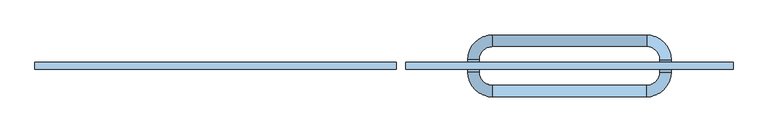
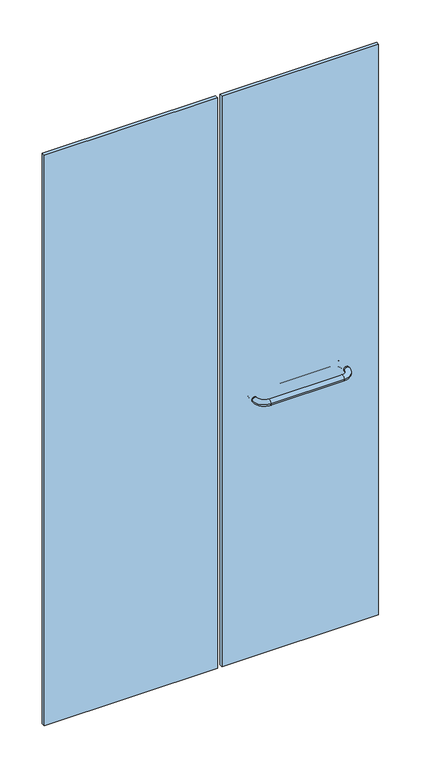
"""IFC4 building model written with IfcOpenShell, lengths in millimetres: window geometry, Baño 1 Puerta lateral - toallero simple : CA08a-cancel baño-1.15."""

from ifc_helpers import new_model, si_unit, point, frame, origin, origin_with_axes, place, context, project, spatial, polyline, circle_curve, ellipse_curve, trimmed, outline, extrude, source, transform, mapped, element, save
from ifc_brep_helpers import cylinder_surface, revolved_surface, advanced_brep


def window_d1d74ead(model_context):
    return source(origin(), model_context, "Body", "SolidModel", [
        extrude(outline(polyline([(27.25, 5.5), (547.25, 5.5), (547.25, -5.5), (27.25, -5.5), (27.25, 5.5)])), origin_with_axes(), (0.0, 0.0, 1.0), 2000.0),
        extrude(outline(polyline([(-562.25, 5.5), (12.25, 5.5), (12.25, -5.5), (-562.25, -5.5), (-562.25, 5.5)])), origin_with_axes(), (0.0, 0.0, 1.0), 2000.0),
        advanced_brep(
        [(125.75, -10.0, 900.0), (143.75, -10.0, 900.0), (164.75, -31.0, 900.0), (164.75, -49.0, 900.0), (125.75, 10.0, 900.0), (143.75, 10.0, 900.0), (164.75, 49.0, 900.0), (164.75, 31.0, 900.0), (409.75, 49.0, 900.0), (409.75, 31.0, 900.0), (448.75, 10.0, 900.0), (430.75, 10.0, 900.0), (448.75, -10.0, 900.0), (430.75, -10.0, 900.0), (409.75, -49.0, 900.0), (409.75, -31.0, 900.0)],
        [
            (0, 1, circle_curve(frame((134.75, -10.0, 900.0), z_axis=(0.0, -1.0, 0.0), x_axis=(1.0, 0.0, 0.0)), 9.0)),
            (1, 2, circle_curve(frame((164.75, -10.0, 900.0), z_axis=(0.0, 0.0, 1.0), x_axis=(0.0, -1.0, 0.0)), 21.0)),
            (2, 3, circle_curve(frame((164.75, -40.0, 900.0), z_axis=(-1.0, 0.0, 0.0), x_axis=(0.0, 1.0, 0.0)), 9.0)),
            (3, 0, circle_curve(frame((164.75, -10.0, 900.0), z_axis=(0.0, 0.0, -1.0), x_axis=(0.0, -1.0, 0.0)), 39.0)),
            (1, 0, circle_curve(frame((134.75, -10.0, 900.0), z_axis=(0.0, -1.0, 0.0), x_axis=(1.0, 0.0, 0.0)), 9.0)),
            (3, 2, circle_curve(frame((164.75, -40.0, 900.0), z_axis=(-1.0, 0.0, 0.0), x_axis=(0.0, 1.0, 0.0)), 9.0)),
            (0, 4),
            (4, 5, circle_curve(frame((134.75, 10.0, 900.0), z_axis=(0.0, -1.0, 0.0), x_axis=(1.0, 0.0, 0.0)), 9.0)),
            (5, 1),
            (5, 4, circle_curve(frame((134.75, 10.0, 900.0), z_axis=(0.0, -1.0, 0.0), x_axis=(1.0, 0.0, 0.0)), 9.0)),
            (6, 7, circle_curve(frame((164.75, 40.0, 900.0), z_axis=(-1.0, 0.0, 0.0), x_axis=(0.0, -1.0, 0.0)), 9.0)),
            (7, 5, circle_curve(frame((164.75, 10.0, 900.0), z_axis=(0.0, 0.0, 1.0), x_axis=(-1.0, 0.0, 0.0)), 21.0)),
            (4, 6, circle_curve(frame((164.75, 10.0, 900.0), z_axis=(0.0, 0.0, -1.0), x_axis=(-1.0, 0.0, 0.0)), 39.0)),
            (7, 6, circle_curve(frame((164.75, 40.0, 900.0), z_axis=(-1.0, 0.0, 0.0), x_axis=(0.0, -1.0, 0.0)), 9.0)),
            (6, 8),
            (8, 9, circle_curve(frame((409.75, 40.0, 900.0), z_axis=(-1.0, 0.0, 0.0), x_axis=(0.0, -1.0, 0.0)), 9.0)),
            (9, 7),
            (9, 8, circle_curve(frame((409.75, 40.0, 900.0), z_axis=(-1.0, 0.0, 0.0), x_axis=(0.0, -1.0, 0.0)), 9.0)),
            (10, 11, circle_curve(frame((439.75, 10.0, 900.0), z_axis=(0.0, 1.0, 0.0), x_axis=(-1.0, 0.0, 0.0)), 9.0)),
            (11, 9, circle_curve(frame((409.75, 10.0, 900.0), z_axis=(0.0, 0.0, 1.0), x_axis=(0.0, 1.0, 0.0)), 21.0)),
            (8, 10, circle_curve(frame((409.75, 10.0, 900.0), z_axis=(0.0, 0.0, -1.0), x_axis=(0.0, 1.0, 0.0)), 39.0)),
            (11, 10, circle_curve(frame((439.75, 10.0, 900.0), z_axis=(0.0, 1.0, 0.0), x_axis=(-1.0, 0.0, 0.0)), 9.0)),
            (10, 12),
            (12, 13, circle_curve(frame((439.75, -10.0, 900.0), z_axis=(0.0, 1.0, 0.0), x_axis=(-1.0, 0.0, 0.0)), 9.0)),
            (13, 11),
            (13, 12, circle_curve(frame((439.75, -10.0, 900.0), z_axis=(0.0, 1.0, 0.0), x_axis=(-1.0, 0.0, 0.0)), 9.0)),
            (14, 15, circle_curve(frame((409.75, -40.0, 900.0), z_axis=(1.0, 0.0, 0.0), x_axis=(0.0, 1.0, 0.0)), 9.0)),
            (15, 13, circle_curve(frame((409.75, -10.0, 900.0), z_axis=(0.0, 0.0, 1.0), x_axis=(1.0, 0.0, 0.0)), 21.0)),
            (12, 14, circle_curve(frame((409.75, -10.0, 900.0), z_axis=(0.0, 0.0, -1.0), x_axis=(1.0, 0.0, 0.0)), 39.0)),
            (15, 14, circle_curve(frame((409.75, -40.0, 900.0), z_axis=(1.0, 0.0, 0.0), x_axis=(0.0, 1.0, 0.0)), 9.0)),
            (14, 3),
            (2, 15),
        ],
        [
            revolved_surface(trimmed(ellipse_curve(frame((164.75, -40.0, 900.0), z_axis=(-1.0, 0.0, 0.0), x_axis=(0.0, 1.0, 0.0)), 9.0, 9.0), [point((164.75, -31.0, 900.0))], [point((164.75, -49.0, 900.0))], True, "CARTESIAN"), (164.75, -10.0, 0.0), (0.0, 0.0, 1.0)),
            revolved_surface(trimmed(ellipse_curve(frame((164.75, -40.0, 900.0), z_axis=(-1.0, 0.0, 0.0), x_axis=(0.0, 1.0, 0.0)), 9.0, 9.0), [point((164.75, -49.0, 900.0))], [point((164.75, -31.0, 900.0))], True, "CARTESIAN"), (164.75, -10.0, 0.0), (0.0, 0.0, 1.0)),
            cylinder_surface(frame((134.75, -10.0, 900.0), z_axis=(0.0, -1.0, 0.0), x_axis=(1.0, 0.0, 0.0)), 9.0),
            revolved_surface(trimmed(ellipse_curve(frame((134.75, 10.0, 900.0), z_axis=(0.0, 1.0, 0.0), x_axis=(1.0, 0.0, 0.0)), 9.0, 9.0), [point((143.75, 10.0, 900.0))], [point((125.75, 10.0, 900.0))], True, "CARTESIAN"), (164.75, 10.0, 0.0), (0.0, 0.0, 1.0)),
            revolved_surface(trimmed(ellipse_curve(frame((134.75, 10.0, 900.0), z_axis=(0.0, 1.0, 0.0), x_axis=(1.0, 0.0, 0.0)), 9.0, 9.0), [point((125.75, 10.0, 900.0))], [point((143.75, 10.0, 900.0))], True, "CARTESIAN"), (164.75, 10.0, 0.0), (0.0, 0.0, 1.0)),
            cylinder_surface(frame((164.75, 40.0, 900.0), z_axis=(-1.0, 0.0, 0.0), x_axis=(0.0, -1.0, 0.0)), 9.0),
            revolved_surface(trimmed(ellipse_curve(frame((409.75, 40.0, 900.0), z_axis=(1.0, 0.0, 0.0), x_axis=(0.0, -1.0, 0.0)), 9.0, 9.0), [point((409.75, 31.0, 900.0))], [point((409.75, 49.0, 900.0))], True, "CARTESIAN"), (409.75, 10.0, 0.0), (0.0, 0.0, 1.0)),
            revolved_surface(trimmed(ellipse_curve(frame((409.75, 40.0, 900.0), z_axis=(1.0, 0.0, 0.0), x_axis=(0.0, -1.0, 0.0)), 9.0, 9.0), [point((409.75, 49.0, 900.0))], [point((409.75, 31.0, 900.0))], True, "CARTESIAN"), (409.75, 10.0, 0.0), (0.0, 0.0, 1.0)),
            cylinder_surface(frame((439.75, 10.0, 900.0), z_axis=(0.0, 1.0, 0.0), x_axis=(-1.0, 0.0, 0.0)), 9.0),
            revolved_surface(trimmed(ellipse_curve(frame((439.75, -10.0, 900.0), z_axis=(0.0, -1.0, 0.0), x_axis=(-1.0, 0.0, 0.0)), 9.0, 9.0), [point((430.75, -10.0, 900.0))], [point((448.75, -10.0, 900.0))], True, "CARTESIAN"), (409.75, -10.0, 0.0), (0.0, 0.0, 1.0)),
            revolved_surface(trimmed(ellipse_curve(frame((439.75, -10.0, 900.0), z_axis=(0.0, -1.0, 0.0), x_axis=(-1.0, 0.0, 0.0)), 9.0, 9.0), [point((448.75, -10.0, 900.0))], [point((430.75, -10.0, 900.0))], True, "CARTESIAN"), (409.75, -10.0, 0.0), (0.0, 0.0, 1.0)),
            cylinder_surface(frame((409.75, -40.0, 900.0), z_axis=(1.0, 0.0, 0.0), x_axis=(0.0, 1.0, 0.0)), 9.0),
        ],
        [
            (0, [[1, 2, 3, 4]]),
            (1, [[5, -4, 6, -2]]),
            (2, [[7, 8, 9, -1]]),
            (2, [[-9, 10, -7, -5]]),
            (3, [[11, 12, -8, 13]]),
            (4, [[14, -13, -10, -12]]),
            (5, [[15, 16, 17, -11]]),
            (5, [[-17, 18, -15, -14]]),
            (6, [[19, 20, -16, 21]]),
            (7, [[22, -21, -18, -20]]),
            (8, [[23, 24, 25, -19]]),
            (8, [[-25, 26, -23, -22]]),
            (9, [[27, 28, -24, 29]]),
            (10, [[30, -29, -26, -28]]),
            (11, [[31, -3, 32, -27]]),
            (11, [[-32, -6, -31, -30]]),
        ],
    ),
    ])


if __name__ == "__main__":
    model = new_model("IFC4")
    model_context = context("Model", 3, world=origin())
    ifc_project = project(units=[si_unit("LENGTHUNIT", "METRE", prefix="MILLI")], contexts=[model_context])
    site = spatial("IfcSite", under=ifc_project)
    building = spatial("IfcBuilding", under=site)
    placement = place(None, origin())
    window_shape = window_d1d74ead(model_context)
    element("IfcWindow", 1, ObjectType="Baño 1 Puerta lateral - toallero simple : CA08a-cancel baño-1.15", at=placement, inside=building, context=model_context, shape_type="MappedRepresentation", body=[
        mapped(window_shape, transform((0.0, 0.0, 0.0), x_axis=(1.0, 0.0, 0.0), y_axis=(0.0, 1.0, 0.0), z_axis=(0.0, 0.0, 1.0))),
    ])
    save(model, "model.ifc")
